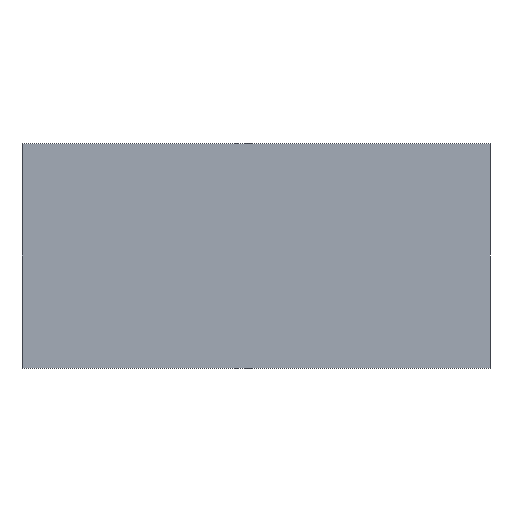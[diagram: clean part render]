
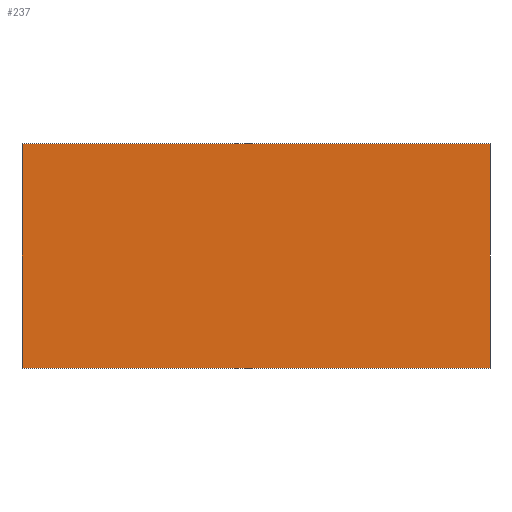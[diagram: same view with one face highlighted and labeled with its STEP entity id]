
A CAD part, front view. The second image highlights one B-rep face of the part: STEP entity #237.
In plain terms, the highlighted planar face has unit normal (0, -1, 0).
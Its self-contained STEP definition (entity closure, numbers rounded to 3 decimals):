
#21 = EDGE_CURVE('',#22,#24,#26,.T.);
#22 = VERTEX_POINT('',#23);
#23 = CARTESIAN_POINT('',(198.,-246.,205.));
#24 = VERTEX_POINT('',#25);
#25 = CARTESIAN_POINT('',(198.,-246.,217.));
#26 = SURFACE_CURVE('',#27,(#31,#43),.PCURVE_S1.);
#27 = LINE('',#28,#29);
#28 = CARTESIAN_POINT('',(198.,-246.,205.));
#29 = VECTOR('',#30,1.);
#30 = DIRECTION('',(0.,0.,1.));
#31 = PCURVE('',#32,#37);
#32 = PLANE('',#33);
#33 = AXIS2_PLACEMENT_3D('',#34,#35,#36);
#34 = CARTESIAN_POINT('',(198.,-246.,205.));
#35 = DIRECTION('',(1.,0.,-0.));
#36 = DIRECTION('',(0.,0.,1.));
#37 = DEFINITIONAL_REPRESENTATION('',(#38),#42);
#38 = LINE('',#39,#40);
#39 = CARTESIAN_POINT('',(0.,0.));
#40 = VECTOR('',#41,1.);
#41 = DIRECTION('',(1.,0.));
#42 = ( GEOMETRIC_REPRESENTATION_CONTEXT(2) 
PARAMETRIC_REPRESENTATION_CONTEXT() REPRESENTATION_CONTEXT('2D SPACE',''
  ) );
#43 = PCURVE('',#44,#49);
#44 = PLANE('',#45);
#45 = AXIS2_PLACEMENT_3D('',#46,#47,#48);
#46 = CARTESIAN_POINT('',(198.,-246.,205.));
#47 = DIRECTION('',(-0.,1.,0.));
#48 = DIRECTION('',(0.,0.,1.));
#49 = DEFINITIONAL_REPRESENTATION('',(#50),#54);
#50 = LINE('',#51,#52);
#51 = CARTESIAN_POINT('',(0.,0.));
#52 = VECTOR('',#53,1.);
#53 = DIRECTION('',(1.,0.));
#54 = ( GEOMETRIC_REPRESENTATION_CONTEXT(2) 
PARAMETRIC_REPRESENTATION_CONTEXT() REPRESENTATION_CONTEXT('2D SPACE',''
  ) );
#72 = PLANE('',#73);
#73 = AXIS2_PLACEMENT_3D('',#74,#75,#76);
#74 = CARTESIAN_POINT('',(198.,-246.,205.));
#75 = DIRECTION('',(0.,0.,1.));
#76 = DIRECTION('',(1.,0.,-0.));
#126 = PLANE('',#127);
#127 = AXIS2_PLACEMENT_3D('',#128,#129,#130);
#128 = CARTESIAN_POINT('',(198.,-246.,217.));
#129 = DIRECTION('',(0.,0.,1.));
#130 = DIRECTION('',(1.,0.,-0.));
#141 = EDGE_CURVE('',#142,#144,#146,.T.);
#142 = VERTEX_POINT('',#143);
#143 = CARTESIAN_POINT('',(223.,-246.,205.));
#144 = VERTEX_POINT('',#145);
#145 = CARTESIAN_POINT('',(223.,-246.,217.));
#146 = SURFACE_CURVE('',#147,(#151,#163),.PCURVE_S1.);
#147 = LINE('',#148,#149);
#148 = CARTESIAN_POINT('',(223.,-246.,205.));
#149 = VECTOR('',#150,1.);
#150 = DIRECTION('',(0.,0.,1.));
#151 = PCURVE('',#152,#157);
#152 = PLANE('',#153);
#153 = AXIS2_PLACEMENT_3D('',#154,#155,#156);
#154 = CARTESIAN_POINT('',(223.,-246.,205.));
#155 = DIRECTION('',(1.,0.,-0.));
#156 = DIRECTION('',(0.,0.,1.));
#157 = DEFINITIONAL_REPRESENTATION('',(#158),#162);
#158 = LINE('',#159,#160);
#159 = CARTESIAN_POINT('',(0.,0.));
#160 = VECTOR('',#161,1.);
#161 = DIRECTION('',(1.,0.));
#162 = ( GEOMETRIC_REPRESENTATION_CONTEXT(2) 
PARAMETRIC_REPRESENTATION_CONTEXT() REPRESENTATION_CONTEXT('2D SPACE',''
  ) );
#163 = PCURVE('',#44,#164);
#164 = DEFINITIONAL_REPRESENTATION('',(#165),#169);
#165 = LINE('',#166,#167);
#166 = CARTESIAN_POINT('',(0.,25.));
#167 = VECTOR('',#168,1.);
#168 = DIRECTION('',(1.,0.));
#169 = ( GEOMETRIC_REPRESENTATION_CONTEXT(2) 
PARAMETRIC_REPRESENTATION_CONTEXT() REPRESENTATION_CONTEXT('2D SPACE',''
  ) );
#237 = ADVANCED_FACE('',(#238),#44,.F.);
#238 = FACE_BOUND('',#239,.F.);
#239 = EDGE_LOOP('',(#240,#261,#262,#283));
#240 = ORIENTED_EDGE('',*,*,#241,.F.);
#241 = EDGE_CURVE('',#22,#142,#242,.T.);
#242 = SURFACE_CURVE('',#243,(#247,#254),.PCURVE_S1.);
#243 = LINE('',#244,#245);
#244 = CARTESIAN_POINT('',(198.,-246.,205.));
#245 = VECTOR('',#246,1.);
#246 = DIRECTION('',(1.,0.,-0.));
#247 = PCURVE('',#44,#248);
#248 = DEFINITIONAL_REPRESENTATION('',(#249),#253);
#249 = LINE('',#250,#251);
#250 = CARTESIAN_POINT('',(0.,0.));
#251 = VECTOR('',#252,1.);
#252 = DIRECTION('',(0.,1.));
#253 = ( GEOMETRIC_REPRESENTATION_CONTEXT(2) 
PARAMETRIC_REPRESENTATION_CONTEXT() REPRESENTATION_CONTEXT('2D SPACE',''
  ) );
#254 = PCURVE('',#72,#255);
#255 = DEFINITIONAL_REPRESENTATION('',(#256),#260);
#256 = LINE('',#257,#258);
#257 = CARTESIAN_POINT('',(0.,0.));
#258 = VECTOR('',#259,1.);
#259 = DIRECTION('',(1.,0.));
#260 = ( GEOMETRIC_REPRESENTATION_CONTEXT(2) 
PARAMETRIC_REPRESENTATION_CONTEXT() REPRESENTATION_CONTEXT('2D SPACE',''
  ) );
#261 = ORIENTED_EDGE('',*,*,#21,.T.);
#262 = ORIENTED_EDGE('',*,*,#263,.T.);
#263 = EDGE_CURVE('',#24,#144,#264,.T.);
#264 = SURFACE_CURVE('',#265,(#269,#276),.PCURVE_S1.);
#265 = LINE('',#266,#267);
#266 = CARTESIAN_POINT('',(198.,-246.,217.));
#267 = VECTOR('',#268,1.);
#268 = DIRECTION('',(1.,0.,-0.));
#269 = PCURVE('',#44,#270);
#270 = DEFINITIONAL_REPRESENTATION('',(#271),#275);
#271 = LINE('',#272,#273);
#272 = CARTESIAN_POINT('',(12.,0.));
#273 = VECTOR('',#274,1.);
#274 = DIRECTION('',(0.,1.));
#275 = ( GEOMETRIC_REPRESENTATION_CONTEXT(2) 
PARAMETRIC_REPRESENTATION_CONTEXT() REPRESENTATION_CONTEXT('2D SPACE',''
  ) );
#276 = PCURVE('',#126,#277);
#277 = DEFINITIONAL_REPRESENTATION('',(#278),#282);
#278 = LINE('',#279,#280);
#279 = CARTESIAN_POINT('',(0.,0.));
#280 = VECTOR('',#281,1.);
#281 = DIRECTION('',(1.,0.));
#282 = ( GEOMETRIC_REPRESENTATION_CONTEXT(2) 
PARAMETRIC_REPRESENTATION_CONTEXT() REPRESENTATION_CONTEXT('2D SPACE',''
  ) );
#283 = ORIENTED_EDGE('',*,*,#141,.F.);
